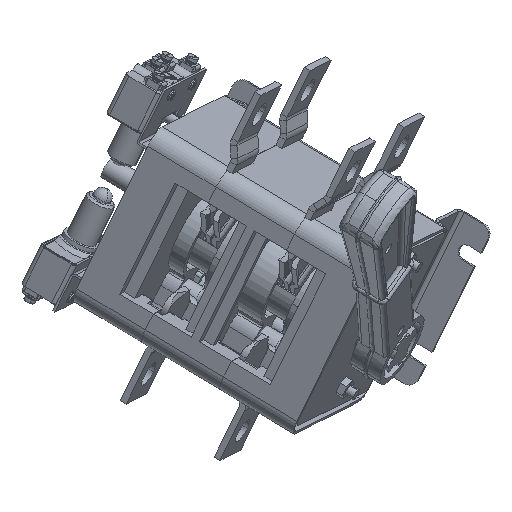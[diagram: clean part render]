
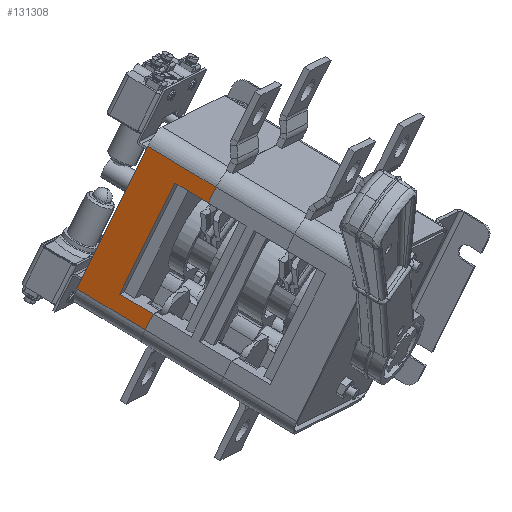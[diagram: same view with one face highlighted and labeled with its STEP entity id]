
A CAD part, top view. The second image highlights one B-rep face of the part: STEP entity #131308.
In plain terms, the highlighted planar face has unit normal (-0.357, -0.182, 0.916).
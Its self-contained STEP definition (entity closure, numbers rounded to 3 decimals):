
#125 = CARTESIAN_POINT ( 'NONE',  ( -290.34, 42.997, 29.086 ) ) ;
#3548 = ORIENTED_EDGE ( 'NONE', *, *, #146092, .F. ) ;
#4152 = VERTEX_POINT ( 'NONE', #118484 ) ;
#7301 = FACE_OUTER_BOUND ( 'NONE', #58605, .T. ) ;
#9397 = CARTESIAN_POINT ( 'NONE',  ( -257.779, 32.151, 39.626 ) ) ;
#16104 = DIRECTION ( 'NONE',  ( -0.834, 0.503, -0.225 ) ) ;
#21402 = DIRECTION ( 'NONE',  ( -0.42, -0.845, -0.331 ) ) ;
#22465 = EDGE_CURVE ( 'NONE', #97439, #124202, #143087, .T. ) ;
#23542 = CARTESIAN_POINT ( 'NONE',  ( -261.137, 25.392, 36.975 ) ) ;
#24737 = VERTEX_POINT ( 'NONE', #40334 ) ;
#26627 = CARTESIAN_POINT ( 'NONE',  ( -293.699, 36.238, 26.435 ) ) ;
#27947 = VERTEX_POINT ( 'NONE', #139217 ) ;
#29618 = DIRECTION ( 'NONE',  ( 0.357, 0.182, -0.916 ) ) ;
#30147 = CARTESIAN_POINT ( 'NONE',  ( -234.267, 79.466, 58.187 ) ) ;
#32501 = CARTESIAN_POINT ( 'NONE',  ( -261.137, 25.392, 36.975 ) ) ;
#33298 = CARTESIAN_POINT ( 'NONE',  ( -248.452, 88.018, 54.355 ) ) ;
#33981 = DIRECTION ( 'NONE',  ( 0.834, -0.503, 0.225 ) ) ;
#39281 = DIRECTION ( 'NONE',  ( -0.834, 0.503, -0.225 ) ) ;
#39597 = CARTESIAN_POINT ( 'NONE',  ( -271.963, 40.702, 35.795 ) ) ;
#40334 = CARTESIAN_POINT ( 'NONE',  ( -230.909, 86.226, 60.838 ) ) ;
#41438 = ORIENTED_EDGE ( 'NONE', *, *, #76593, .T. ) ;
#44454 = LINE ( 'NONE', #33298, #80930 ) ;
#46522 = VECTOR ( 'NONE', #16104, 1000. ) ;
#48908 = DIRECTION ( 'NONE',  ( -0.42, -0.845, -0.331 ) ) ;
#50923 = VECTOR ( 'NONE', #88150, 1000. ) ;
#54330 = LINE ( 'NONE', #123394, #87085 ) ;
#55973 = ORIENTED_EDGE ( 'NONE', *, *, #87785, .F. ) ;
#58605 = EDGE_LOOP ( 'NONE', ( #80603, #78920, #109482, #41438, #146993, #131615, #3548, #55973 ) ) ;
#59117 = EDGE_CURVE ( 'NONE', #4152, #107055, #92774, .T. ) ;
#61984 = VECTOR ( 'NONE', #48908, 1000. ) ;
#63036 = CARTESIAN_POINT ( 'NONE',  ( -264.496, 18.632, 34.323 ) ) ;
#63576 = DIRECTION ( 'NONE',  ( -0.834, 0.503, -0.225 ) ) ;
#63658 = LINE ( 'NONE', #9397, #50923 ) ;
#64057 = EDGE_CURVE ( 'NONE', #107055, #78417, #103046, .T. ) ;
#65565 = VECTOR ( 'NONE', #118732, 1000. ) ;
#65691 = CARTESIAN_POINT ( 'NONE',  ( -234.267, 79.466, 58.187 ) ) ;
#70402 = CARTESIAN_POINT ( 'NONE',  ( -230.909, 86.226, 60.838 ) ) ;
#73428 = LINE ( 'NONE', #86760, #65565 ) ;
#76593 = EDGE_CURVE ( 'NONE', #24737, #4152, #138775, .T. ) ;
#78417 = VERTEX_POINT ( 'NONE', #32501 ) ;
#78920 = ORIENTED_EDGE ( 'NONE', *, *, #22465, .F. ) ;
#80603 = ORIENTED_EDGE ( 'NONE', *, *, #100739, .F. ) ;
#80930 = VECTOR ( 'NONE', #21402, 1000. ) ;
#86760 = CARTESIAN_POINT ( 'NONE',  ( -264.496, 18.632, 34.323 ) ) ;
#87085 = VECTOR ( 'NONE', #144973, 1000. ) ;
#87785 = EDGE_CURVE ( 'NONE', #110715, #27947, #63658, .T. ) ;
#88150 = DIRECTION ( 'NONE',  ( 0.834, -0.503, 0.225 ) ) ;
#92774 = LINE ( 'NONE', #26627, #61984 ) ;
#92862 = VECTOR ( 'NONE', #63576, 1000. ) ;
#93400 = EDGE_CURVE ( 'NONE', #24737, #97439, #54330, .T. ) ;
#97439 = VERTEX_POINT ( 'NONE', #65691 ) ;
#100739 = EDGE_CURVE ( 'NONE', #124202, #110715, #44454, .T. ) ;
#103046 = LINE ( 'NONE', #23542, #129874 ) ;
#106219 = AXIS2_PLACEMENT_3D ( 'NONE', #63036, #29618, #39281 ) ;
#107055 = VERTEX_POINT ( 'NONE', #125 ) ;
#108362 = PLANE ( 'NONE',  #106219 ) ;
#109482 = ORIENTED_EDGE ( 'NONE', *, *, #93400, .F. ) ;
#110715 = VERTEX_POINT ( 'NONE', #39597 ) ;
#118484 = CARTESIAN_POINT ( 'NONE',  ( -260.112, 103.831, 52.949 ) ) ;
#118732 = DIRECTION ( 'NONE',  ( -0.42, -0.845, -0.331 ) ) ;
#122466 = CARTESIAN_POINT ( 'NONE',  ( -248.452, 88.018, 54.355 ) ) ;
#123394 = CARTESIAN_POINT ( 'NONE',  ( -264.496, 18.632, 34.323 ) ) ;
#124202 = VERTEX_POINT ( 'NONE', #122466 ) ;
#129874 = VECTOR ( 'NONE', #33981, 1000. ) ;
#131308 = ADVANCED_FACE ( 'NONE', ( #7301 ), #108362, .F. ) ;
#131615 = ORIENTED_EDGE ( 'NONE', *, *, #64057, .T. ) ;
#138775 = LINE ( 'NONE', #70402, #46522 ) ;
#139217 = CARTESIAN_POINT ( 'NONE',  ( -257.779, 32.151, 39.626 ) ) ;
#143087 = LINE ( 'NONE', #30147, #92862 ) ;
#144973 = DIRECTION ( 'NONE',  ( -0.42, -0.845, -0.331 ) ) ;
#146092 = EDGE_CURVE ( 'NONE', #27947, #78417, #73428, .T. ) ;
#146993 = ORIENTED_EDGE ( 'NONE', *, *, #59117, .T. ) ;
